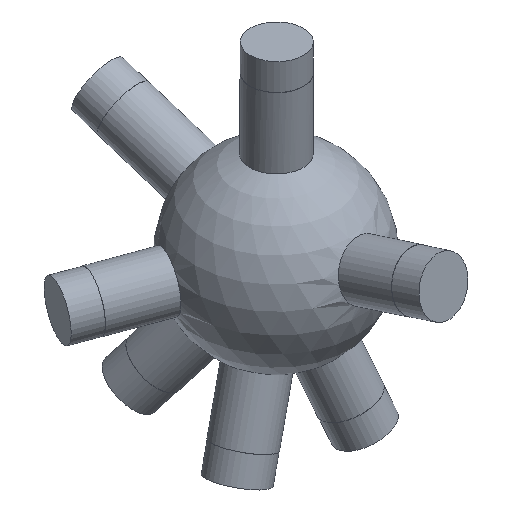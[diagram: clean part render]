
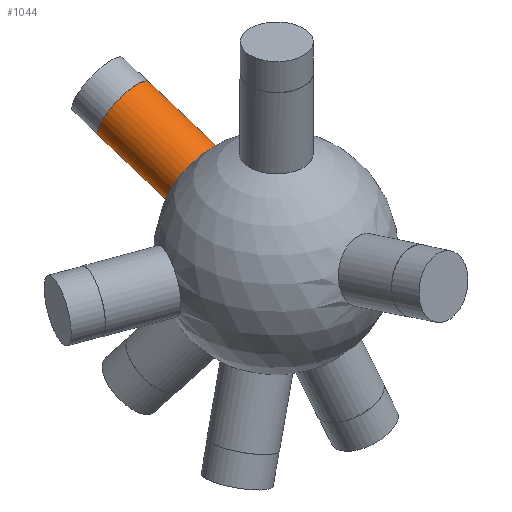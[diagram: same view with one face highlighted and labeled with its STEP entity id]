
A CAD part, isometric view. The second image highlights one B-rep face of the part: STEP entity #1044.
In plain terms, the highlighted cylindrical face has radius 6 mm (diameter 12 mm), a full revolution.
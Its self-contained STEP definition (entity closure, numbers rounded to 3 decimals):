
#33 = SPHERICAL_SURFACE('',#34,20.);
#34 = AXIS2_PLACEMENT_3D('',#35,#36,#37);
#35 = CARTESIAN_POINT('',(0.,0.,0.));
#36 = DIRECTION('',(0.,0.,1.));
#37 = DIRECTION('',(1.,0.,-0.));
#599 = EDGE_CURVE('',#600,#600,#602,.T.);
#600 = VERTEX_POINT('',#601);
#601 = CARTESIAN_POINT('',(-1.383,15.228,
    12.892));
#602 = SURFACE_CURVE('',#603,(#608,#663),.PCURVE_S1.);
#603 = CIRCLE('',#604,6.);
#604 = AXIS2_PLACEMENT_3D('',#605,#606,#607);
#605 = CARTESIAN_POINT('',(-1.383,17.548,7.359
    ));
#606 = DIRECTION('',(-0.072,0.92,0.386));
#607 = DIRECTION('',(0.,-0.387,0.922)
  );
#608 = PCURVE('',#33,#609);
#609 = DEFINITIONAL_REPRESENTATION('',(#610),#662);
#610 = B_SPLINE_CURVE_WITH_KNOTS('',8,(#611,#612,#613,#614,#615,#616,
    #617,#618,#619,#620,#621,#622,#623,#624,#625,#626,#627,#628,#629,
    #630,#631,#632,#633,#634,#635,#636,#637,#638,#639,#640,#641,#642,
    #643,#644,#645,#646,#647,#648,#649,#650,#651,#652,#653,#654,#655,
    #656,#657,#658,#659,#660,#661),.UNSPECIFIED.,.F.,.F.,(9,7,7,7,7,7,7,
    9),(0.,0.785,1.473,2.675,3.577,
    4.93,5.607,6.283),.UNSPECIFIED.);
#611 = CARTESIAN_POINT('',(1.661,0.701));
#612 = CARTESIAN_POINT('',(1.623,0.702));
#613 = CARTESIAN_POINT('',(1.584,0.699));
#614 = CARTESIAN_POINT('',(1.546,0.692));
#615 = CARTESIAN_POINT('',(1.51,0.681));
#616 = CARTESIAN_POINT('',(1.476,0.667));
#617 = CARTESIAN_POINT('',(1.446,0.649));
#618 = CARTESIAN_POINT('',(1.42,0.629));
#619 = CARTESIAN_POINT('',(1.377,0.586));
#620 = CARTESIAN_POINT('',(1.359,0.565));
#621 = CARTESIAN_POINT('',(1.345,0.541));
#622 = CARTESIAN_POINT('',(1.334,0.517));
#623 = CARTESIAN_POINT('',(1.326,0.492));
#624 = CARTESIAN_POINT('',(1.321,0.467));
#625 = CARTESIAN_POINT('',(1.318,0.441));
#626 = CARTESIAN_POINT('',(1.318,0.37));
#627 = CARTESIAN_POINT('',(1.327,0.325));
#628 = CARTESIAN_POINT('',(1.342,0.281));
#629 = CARTESIAN_POINT('',(1.365,0.241));
#630 = CARTESIAN_POINT('',(1.393,0.203));
#631 = CARTESIAN_POINT('',(1.426,0.171));
#632 = CARTESIAN_POINT('',(1.464,0.145));
#633 = CARTESIAN_POINT('',(1.535,0.11));
#634 = CARTESIAN_POINT('',(1.568,0.099));
#635 = CARTESIAN_POINT('',(1.601,0.091));
#636 = CARTESIAN_POINT('',(1.635,0.087));
#637 = CARTESIAN_POINT('',(1.67,0.088));
#638 = CARTESIAN_POINT('',(1.704,0.093));
#639 = CARTESIAN_POINT('',(1.737,0.101));
#640 = CARTESIAN_POINT('',(1.816,0.132));
#641 = CARTESIAN_POINT('',(1.861,0.159));
#642 = CARTESIAN_POINT('',(1.9,0.194));
#643 = CARTESIAN_POINT('',(1.933,0.235));
#644 = CARTESIAN_POINT('',(1.959,0.281));
#645 = CARTESIAN_POINT('',(1.976,0.331));
#646 = CARTESIAN_POINT('',(1.983,0.382));
#647 = CARTESIAN_POINT('',(1.979,0.458));
#648 = CARTESIAN_POINT('',(1.975,0.483));
#649 = CARTESIAN_POINT('',(1.968,0.508));
#650 = CARTESIAN_POINT('',(1.958,0.532));
#651 = CARTESIAN_POINT('',(1.946,0.556));
#652 = CARTESIAN_POINT('',(1.93,0.578));
#653 = CARTESIAN_POINT('',(1.912,0.598));
#654 = CARTESIAN_POINT('',(1.869,0.635));
#655 = CARTESIAN_POINT('',(1.846,0.652));
#656 = CARTESIAN_POINT('',(1.819,0.667));
#657 = CARTESIAN_POINT('',(1.79,0.679));
#658 = CARTESIAN_POINT('',(1.76,0.689));
#659 = CARTESIAN_POINT('',(1.727,0.696));
#660 = CARTESIAN_POINT('',(1.695,0.7));
#661 = CARTESIAN_POINT('',(1.661,0.701));
#662 = ( GEOMETRIC_REPRESENTATION_CONTEXT(2) 
PARAMETRIC_REPRESENTATION_CONTEXT() REPRESENTATION_CONTEXT('2D SPACE',''
  ) );
#663 = PCURVE('',#664,#669);
#664 = CYLINDRICAL_SURFACE('',#665,6.);
#665 = AXIS2_PLACEMENT_3D('',#666,#667,#668);
#666 = CARTESIAN_POINT('',(0.,0.,0.));
#667 = DIRECTION('',(-0.072,0.92,0.386));
#668 = DIRECTION('',(0.,-0.387,0.922)
  );
#669 = DEFINITIONAL_REPRESENTATION('',(#670),#674);
#670 = LINE('',#671,#672);
#671 = CARTESIAN_POINT('',(0.,19.079));
#672 = VECTOR('',#673,1.);
#673 = DIRECTION('',(1.,0.));
#674 = ( GEOMETRIC_REPRESENTATION_CONTEXT(2) 
PARAMETRIC_REPRESENTATION_CONTEXT() REPRESENTATION_CONTEXT('2D SPACE',''
  ) );
#1044 = ADVANCED_FACE('',(#1045),#664,.T.);
#1045 = FACE_BOUND('',#1046,.T.);
#1046 = EDGE_LOOP('',(#1047,#1070,#1097,#1098));
#1047 = ORIENTED_EDGE('',*,*,#1048,.T.);
#1048 = EDGE_CURVE('',#600,#1049,#1051,.T.);
#1049 = VERTEX_POINT('',#1050);
#1050 = CARTESIAN_POINT('',(-2.568,30.273,
    19.201));
#1051 = SEAM_CURVE('',#1052,(#1056,#1063),.PCURVE_S1.);
#1052 = LINE('',#1053,#1054);
#1053 = CARTESIAN_POINT('',(0.,-2.32,
    5.533));
#1054 = VECTOR('',#1055,1.);
#1055 = DIRECTION('',(-0.072,0.92,0.386)
  );
#1056 = PCURVE('',#664,#1057);
#1057 = DEFINITIONAL_REPRESENTATION('',(#1058),#1062);
#1058 = LINE('',#1059,#1060);
#1059 = CARTESIAN_POINT('',(6.283,-0.));
#1060 = VECTOR('',#1061,1.);
#1061 = DIRECTION('',(0.,1.));
#1062 = ( GEOMETRIC_REPRESENTATION_CONTEXT(2) 
PARAMETRIC_REPRESENTATION_CONTEXT() REPRESENTATION_CONTEXT('2D SPACE',''
  ) );
#1063 = PCURVE('',#664,#1064);
#1064 = DEFINITIONAL_REPRESENTATION('',(#1065),#1069);
#1065 = LINE('',#1066,#1067);
#1066 = CARTESIAN_POINT('',(0.,-0.));
#1067 = VECTOR('',#1068,1.);
#1068 = DIRECTION('',(0.,1.));
#1069 = ( GEOMETRIC_REPRESENTATION_CONTEXT(2) 
PARAMETRIC_REPRESENTATION_CONTEXT() REPRESENTATION_CONTEXT('2D SPACE',''
  ) );
#1070 = ORIENTED_EDGE('',*,*,#1071,.F.);
#1071 = EDGE_CURVE('',#1049,#1049,#1072,.T.);
#1072 = SURFACE_CURVE('',#1073,(#1078,#1085),.PCURVE_S1.);
#1073 = CIRCLE('',#1074,6.);
#1074 = AXIS2_PLACEMENT_3D('',#1075,#1076,#1077);
#1075 = CARTESIAN_POINT('',(-2.568,32.593,
    13.668));
#1076 = DIRECTION('',(-0.072,0.92,0.386)
  );
#1077 = DIRECTION('',(0.,-0.387,0.922
    ));
#1078 = PCURVE('',#664,#1079);
#1079 = DEFINITIONAL_REPRESENTATION('',(#1080),#1084);
#1080 = LINE('',#1081,#1082);
#1081 = CARTESIAN_POINT('',(0.,35.436));
#1082 = VECTOR('',#1083,1.);
#1083 = DIRECTION('',(1.,0.));
#1084 = ( GEOMETRIC_REPRESENTATION_CONTEXT(2) 
PARAMETRIC_REPRESENTATION_CONTEXT() REPRESENTATION_CONTEXT('2D SPACE',''
  ) );
#1085 = PCURVE('',#1086,#1091);
#1086 = PLANE('',#1087);
#1087 = AXIS2_PLACEMENT_3D('',#1088,#1089,#1090);
#1088 = CARTESIAN_POINT('',(-2.568,32.593,
    13.668));
#1089 = DIRECTION('',(-0.072,0.92,0.386)
  );
#1090 = DIRECTION('',(0.,-0.387,0.922)
  );
#1091 = DEFINITIONAL_REPRESENTATION('',(#1092),#1096);
#1092 = CIRCLE('',#1093,6.);
#1093 = AXIS2_PLACEMENT_2D('',#1094,#1095);
#1094 = CARTESIAN_POINT('',(0.,0.));
#1095 = DIRECTION('',(1.,0.));
#1096 = ( GEOMETRIC_REPRESENTATION_CONTEXT(2) 
PARAMETRIC_REPRESENTATION_CONTEXT() REPRESENTATION_CONTEXT('2D SPACE',''
  ) );
#1097 = ORIENTED_EDGE('',*,*,#1048,.F.);
#1098 = ORIENTED_EDGE('',*,*,#599,.T.);
